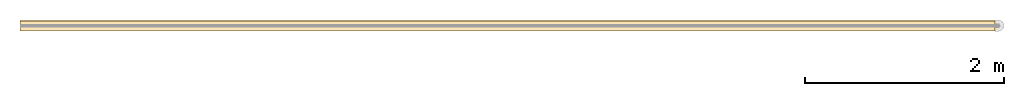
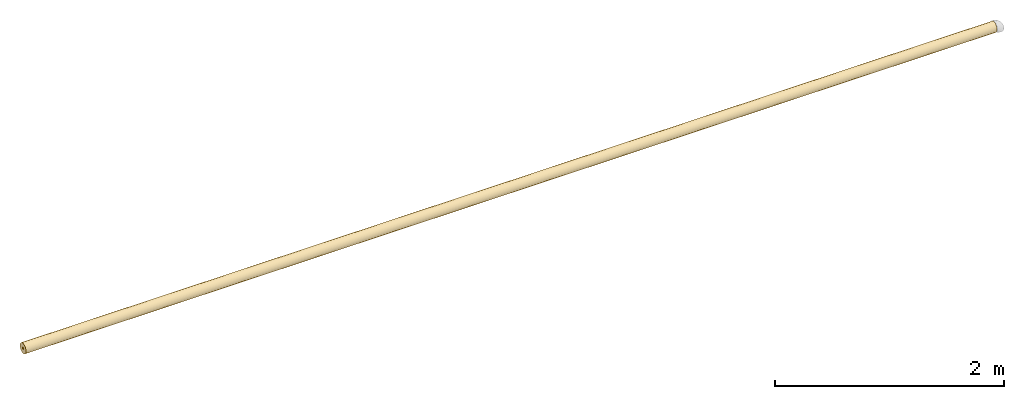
# One storey, part 2 of 4: 1 covering.
"""IFC2X3 building model written with IfcOpenShell, lengths in millimetres."""

from ifc_helpers import new_model, entity, si_unit, converted_unit, derived_unit, direction, frame, place, context, subcontext, project, spatial, faceted_brep, element, save


model = new_model("IFC2X3")

# Units and contexts
model_context = context("Model", 3, precision=0.01, world=frame((0.0, 4.29681676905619e-09, 0.0)), true_north=direction((4.01073788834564e-13, 1.0)))
plan_context = context("Plan", 3, precision=0.01, world=frame((0.0, 4.29681676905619e-09, 0.0)), true_north=direction((4.01073788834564e-13, 1.0)))
body_context = subcontext(model_context, "Body", "Model", "MODEL_VIEW")
ifc_project = project(units=[converted_unit("PLANEANGLEUNIT", "DEGREE", entity("IfcPositiveLengthMeasure", 0.0174532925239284), si_unit("PLANEANGLEUNIT", "RADIAN"), dimensions=[0, 0, 0, 0, 0, 0, 0]), si_unit("AREAUNIT", "SQUARE_METRE"), si_unit("LENGTHUNIT", "METRE", prefix="MILLI"), si_unit("MASSUNIT", "GRAM", prefix="KILO"), si_unit("POWERUNIT", "WATT"), si_unit("PRESSUREUNIT", "PASCAL"), si_unit("FORCEUNIT", "NEWTON", prefix="KILO"), si_unit("ELECTRICVOLTAGEUNIT", "VOLT"), si_unit("ELECTRICCURRENTUNIT", "AMPERE"), si_unit("THERMODYNAMICTEMPERATUREUNIT", "DEGREE_CELSIUS"), si_unit("TIMEUNIT", "SECOND"), si_unit("VOLUMEUNIT", "CUBIC_METRE"), derived_unit("LINEARVELOCITYUNIT", [(si_unit("LENGTHUNIT", "METRE"), 1), (si_unit("TIMEUNIT", "SECOND"), -1)]), derived_unit("VOLUMETRICFLOWRATEUNIT", [(si_unit("VOLUMEUNIT", "CUBIC_METRE"), 1), (si_unit("TIMEUNIT", "SECOND"), -1)]), derived_unit("THERMALTRANSMITTANCEUNIT", [(si_unit("POWERUNIT", "WATT"), 1), (si_unit("THERMODYNAMICTEMPERATUREUNIT", "KELVIN"), -1), (si_unit("AREAUNIT", "SQUARE_METRE"), -1)]), derived_unit("SOUNDPRESSUREUNIT", [(si_unit("PRESSUREUNIT", "PASCAL"), 1)])], contexts=[model_context, plan_context])

# Site, building, storey
site_placement = place(None, frame((0.0, -4.29681676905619e-09, 0.0), z_axis=(0.0, 0.0, 1.0), x_axis=(1.0, 0.0, 0.0)))
site = spatial("IfcSite", under=ifc_project, at=site_placement, Name="ENGM", CompositionType="ELEMENT")
building_placement = place(site_placement, frame((0.0, 4.29681676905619e-09, 0.0), z_axis=(0.0, 0.0, 1.0), x_axis=(1.0, 0.0, 0.0)))
building = spatial("IfcBuilding", under=site, at=building_placement, Name="TI", CompositionType="ELEMENT")
storey_placement = place(building_placement, frame((0.0, 0.0, 205200.0), z_axis=(0.0, 0.0, 1.0), x_axis=(1.0, 0.0, 0.0)))
storey = spatial("IfcBuildingStorey", under=building, at=storey_placement, Name="Nivå D + 1,2 m", CompositionType="ELEMENT", Elevation=205200.0)

# Covering
covering_placement = place(storey_placement, frame((607790.23193, 699355.84973, 4953.16299000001), z_axis=(0.0, 0.0, 1.0), x_axis=(-1.0, 0.0, 0.0)))
element("IfcCovering", 1, at=covering_placement, inside=storey, Name="BI11T - Rørskål m/Al.folie - varme 60-25", PredefinedType="INSULATION", context=body_context, shape_type="Brep", body=[
    faceted_brep([(9790.23193005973, 12.5, 0.0), (9790.23193005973, 12.3100969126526, -2.17060222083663), (0.0, 12.3100969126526, -2.17060222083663), (0.0, 12.5, 0.0), (9790.23193005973, 11.7461577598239, -4.27525179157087), (0.0, 11.7461577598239, -4.27525179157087), (9790.23193005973, 10.8253175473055, -6.25000000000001), (0.0, 10.8253175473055, -6.25000000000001), (9790.23193005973, 9.57555553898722, -8.03484512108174), (0.0, 9.57555553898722, -8.03484512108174), (9790.23193005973, 8.03484512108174, -9.57555553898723), (0.0, 8.03484512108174, -9.57555553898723), (9790.23193005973, 6.25, -10.8253175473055), (0.0, 6.25, -10.8253175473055), (9790.23193005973, 4.27525179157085, -11.7461577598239), (0.0, 4.27525179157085, -11.7461577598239), (9790.23193005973, 2.17060222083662, -12.3100969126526), (0.0, 2.17060222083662, -12.3100969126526), (9790.23193005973, -2.29621274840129e-15, -12.5), (0.0, -2.29621274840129e-15, -12.5), (9790.23193005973, -2.17060222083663, -12.3100969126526), (0.0, -2.17060222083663, -12.3100969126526), (9790.23193005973, -4.27525179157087, -11.7461577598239), (0.0, -4.27525179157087, -11.7461577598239), (9790.23193005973, -6.25000000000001, -10.8253175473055), (0.0, -6.25000000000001, -10.8253175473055), (9790.23193005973, -8.03484512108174, -9.57555553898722), (0.0, -8.03484512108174, -9.57555553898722), (9790.23193005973, -9.57555553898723, -8.03484512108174), (0.0, -9.57555553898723, -8.03484512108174), (9790.23193005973, -10.8253175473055, -6.25), (0.0, -10.8253175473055, -6.25), (9790.23193005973, -11.7461577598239, -4.27525179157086), (0.0, -11.7461577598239, -4.27525179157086), (9790.23193005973, -12.3100969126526, -2.17060222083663), (0.0, -12.3100969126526, -2.17060222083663), (9790.23193005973, -12.5, 1.53080849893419e-15), (0.0, -12.5, 1.53080849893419e-15), (9790.23193005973, -12.3100969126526, 2.17060222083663), (0.0, -12.3100969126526, 2.17060222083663), (9790.23193005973, -11.7461577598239, 4.27525179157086), (0.0, -11.7461577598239, 4.27525179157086), (9790.23193005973, -10.8253175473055, 6.25), (0.0, -10.8253175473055, 6.25), (9790.23193005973, -9.57555553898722, 8.03484512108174), (0.0, -9.57555553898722, 8.03484512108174), (9790.23193005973, -8.03484512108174, 9.57555553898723), (0.0, -8.03484512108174, 9.57555553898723), (9790.23193005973, -6.25, 10.8253175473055), (0.0, -6.25, 10.8253175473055), (9790.23193005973, -4.27525179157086, 11.7461577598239), (0.0, -4.27525179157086, 11.7461577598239), (9790.23193005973, -2.17060222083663, 12.3100969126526), (0.0, -2.17060222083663, 12.3100969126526), (9790.23193005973, 7.65404249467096e-16, 12.5), (0.0, 7.65404249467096e-16, 12.5), (9790.23193005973, 2.17060222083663, 12.3100969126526), (0.0, 2.17060222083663, 12.3100969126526), (9790.23193005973, 4.27525179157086, 11.7461577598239), (0.0, 4.27525179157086, 11.7461577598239), (9790.23193005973, 6.25, 10.8253175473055), (0.0, 6.25, 10.8253175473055), (9790.23193005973, 8.03484512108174, 9.57555553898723), (0.0, 8.03484512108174, 9.57555553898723), (9790.23193005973, 9.57555553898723, 8.03484512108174), (0.0, 9.57555553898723, 8.03484512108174), (9790.23193005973, 10.8253175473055, 6.25), (0.0, 10.8253175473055, 6.25), (9790.23193005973, 11.7461577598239, 4.27525179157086), (0.0, 11.7461577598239, 4.27525179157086), (9790.23193005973, 12.3100969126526, 2.17060222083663), (0.0, 12.3100969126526, 2.17060222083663), (9790.23193005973, 51.7024070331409, -9.11652932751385), (9790.23193005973, 52.5, 0.0), (0.0, 52.5, 0.0), (0.0, 51.7024070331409, -9.11652932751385), (9790.23193005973, 51.7024070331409, 9.11652932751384), (0.0, 51.7024070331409, 9.11652932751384), (9790.23193005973, 49.3338625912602, 17.9560575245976), (0.0, 49.3338625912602, 17.9560575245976), (9790.23193005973, 45.466333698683, 26.25), (0.0, 45.466333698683, 26.25), (9790.23193005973, 40.2173332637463, 33.7463495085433), (0.0, 40.2173332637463, 33.7463495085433), (9790.23193005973, 33.7463495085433, 40.2173332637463), (0.0, 33.7463495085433, 40.2173332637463), (9790.23193005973, 26.25, 45.466333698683), (0.0, 26.25, 45.466333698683), (9790.23193005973, 17.9560575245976, 49.3338625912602), (0.0, 17.9560575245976, 49.3338625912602), (9790.23193005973, 9.11652932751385, 51.7024070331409), (0.0, 9.11652932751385, 51.7024070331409), (9790.23193005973, 3.2146978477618e-15, 52.5), (0.0, 3.2146978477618e-15, 52.5), (9790.23193005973, -9.11652932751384, 51.7024070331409), (0.0, -9.11652932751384, 51.7024070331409), (9790.23193005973, -17.9560575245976, 49.3338625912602), (0.0, -17.9560575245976, 49.3338625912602), (9790.23193005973, -26.25, 45.466333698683), (0.0, -26.25, 45.466333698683), (9790.23193005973, -33.7463495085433, 40.2173332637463), (0.0, -33.7463495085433, 40.2173332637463), (9790.23193005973, -40.2173332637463, 33.7463495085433), (0.0, -40.2173332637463, 33.7463495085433), (9790.23193005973, -45.466333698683, 26.25), (0.0, -45.466333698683, 26.25), (9790.23193005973, -49.3338625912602, 17.9560575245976), (0.0, -49.3338625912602, 17.9560575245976), (9790.23193005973, -51.7024070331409, 9.11652932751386), (0.0, -51.7024070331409, 9.11652932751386), (9790.23193005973, -52.5, 6.4293956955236e-15), (0.0, -52.5, 6.4293956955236e-15), (9790.23193005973, -51.7024070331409, -9.11652932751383), (0.0, -51.7024070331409, -9.11652932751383), (9790.23193005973, -49.3338625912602, -17.9560575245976), (0.0, -49.3338625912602, -17.9560575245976), (9790.23193005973, -45.466333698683, -26.25), (0.0, -45.466333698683, -26.25), (9790.23193005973, -40.2173332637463, -33.7463495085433), (0.0, -40.2173332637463, -33.7463495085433), (9790.23193005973, -33.7463495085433, -40.2173332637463), (0.0, -33.7463495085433, -40.2173332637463), (9790.23193005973, -26.25, -45.466333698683), (0.0, -26.25, -45.466333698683), (9790.23193005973, -17.9560575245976, -49.3338625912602), (0.0, -17.9560575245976, -49.3338625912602), (9790.23193005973, -9.11652932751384, -51.7024070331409), (0.0, -9.11652932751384, -51.7024070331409), (9790.23193005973, -9.64409354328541e-15, -52.5), (0.0, -9.64409354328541e-15, -52.5), (9790.23193005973, 9.11652932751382, -51.7024070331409), (0.0, 9.11652932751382, -51.7024070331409), (9790.23193005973, 17.9560575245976, -49.3338625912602), (0.0, 17.9560575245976, -49.3338625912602), (9790.23193005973, 26.25, -45.466333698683), (0.0, 26.25, -45.466333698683), (9790.23193005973, 33.7463495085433, -40.2173332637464), (0.0, 33.7463495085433, -40.2173332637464), (9790.23193005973, 40.2173332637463, -33.7463495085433), (0.0, 40.2173332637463, -33.7463495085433), (9790.23193005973, 45.466333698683, -26.25), (0.0, 45.466333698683, -26.25), (9790.23193005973, 49.3338625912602, -17.9560575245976), (0.0, 49.3338625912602, -17.9560575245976)], [[[0, 1, 2, 3]], [[1, 4, 5, 2]], [[4, 6, 7, 5]], [[6, 8, 9, 7]], [[8, 10, 11, 9]], [[10, 12, 13, 11]], [[12, 14, 15, 13]], [[14, 16, 17, 15]], [[16, 18, 19, 17]], [[18, 20, 21, 19]], [[20, 22, 23, 21]], [[22, 24, 25, 23]], [[24, 26, 27, 25]], [[26, 28, 29, 27]], [[28, 30, 31, 29]], [[30, 32, 33, 31]], [[32, 34, 35, 33]], [[34, 36, 37, 35]], [[36, 38, 39, 37]], [[38, 40, 41, 39]], [[40, 42, 43, 41]], [[42, 44, 45, 43]], [[44, 46, 47, 45]], [[46, 48, 49, 47]], [[48, 50, 51, 49]], [[50, 52, 53, 51]], [[52, 54, 55, 53]], [[54, 56, 57, 55]], [[56, 58, 59, 57]], [[58, 60, 61, 59]], [[60, 62, 63, 61]], [[62, 64, 65, 63]], [[64, 66, 67, 65]], [[66, 68, 69, 67]], [[68, 70, 71, 69]], [[70, 0, 3, 71]], [[72, 73, 74, 75]], [[73, 76, 77, 74]], [[76, 78, 79, 77]], [[78, 80, 81, 79]], [[80, 82, 83, 81]], [[82, 84, 85, 83]], [[84, 86, 87, 85]], [[86, 88, 89, 87]], [[88, 90, 91, 89]], [[90, 92, 93, 91]], [[92, 94, 95, 93]], [[94, 96, 97, 95]], [[96, 98, 99, 97]], [[98, 100, 101, 99]], [[100, 102, 103, 101]], [[102, 104, 105, 103]], [[104, 106, 107, 105]], [[106, 108, 109, 107]], [[108, 110, 111, 109]], [[110, 112, 113, 111]], [[112, 114, 115, 113]], [[114, 116, 117, 115]], [[116, 118, 119, 117]], [[118, 120, 121, 119]], [[120, 122, 123, 121]], [[122, 124, 125, 123]], [[124, 126, 127, 125]], [[126, 128, 129, 127]], [[128, 130, 131, 129]], [[130, 132, 133, 131]], [[132, 134, 135, 133]], [[134, 136, 137, 135]], [[136, 138, 139, 137]], [[138, 140, 141, 139]], [[140, 142, 143, 141]], [[142, 72, 75, 143]], [[75, 74, 77, 79, 81, 83, 85, 87, 89, 91, 93, 95, 97, 99, 101, 103, 105, 107, 109, 111, 113, 115, 117, 119, 121, 123, 125, 127, 129, 131, 133, 135, 137, 139, 141, 143], [3, 2, 5, 7, 9, 11, 13, 15, 17, 19, 21, 23, 25, 27, 29, 31, 33, 35, 37, 39, 41, 43, 45, 47, 49, 51, 53, 55, 57, 59, 61, 63, 65, 67, 69, 71]], [[142, 140, 138, 136, 134, 132, 130, 128, 126, 124, 122, 120, 118, 116, 114, 112, 110, 108, 106, 104, 102, 100, 98, 96, 94, 92, 90, 88, 86, 84, 82, 80, 78, 76, 73, 72], [70, 68, 66, 64, 62, 60, 58, 56, 54, 52, 50, 48, 46, 44, 42, 40, 38, 36, 34, 32, 30, 28, 26, 24, 22, 20, 18, 16, 14, 12, 10, 8, 6, 4, 1, 0]]], orient=[[False], [False], [False], [False], [False], [False], [False], [False], [False], [False], [False], [False], [False], [False], [False], [False], [False], [False], [False], [False], [False], [False], [False], [False], [False], [False], [False], [False], [False], [False], [False], [False], [False], [False], [False], [False], [False], [False], [False], [False], [False], [False], [False], [False], [False], [False], [False], [False], [False], [False], [False], [False], [False], [False], [False], [False], [False], [False], [False], [False], [False], [False], [False], [False], [False], [False], [False], [False], [False], [False], [False], [False], [False, False], [False, False]]),
])

save(model, "model.ifc")
